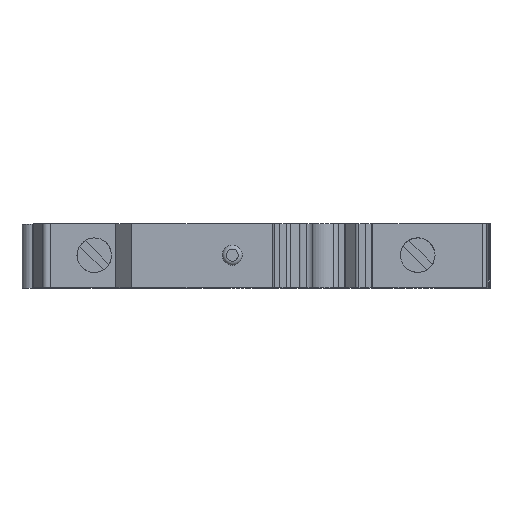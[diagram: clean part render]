
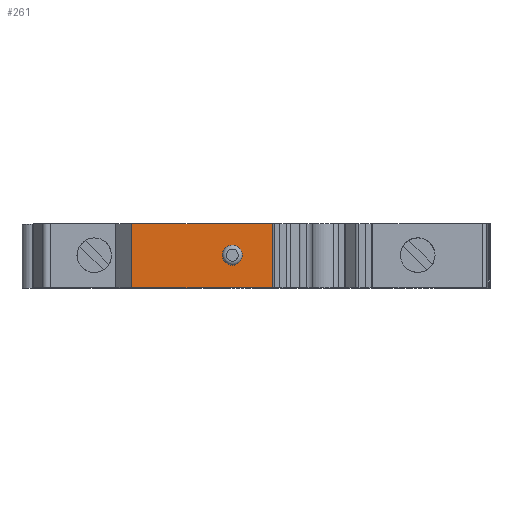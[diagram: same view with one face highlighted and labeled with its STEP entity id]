
A CAD part, top view. The second image highlights one B-rep face of the part: STEP entity #261.
In plain terms, the highlighted planar face has unit normal (0, 0, 1).
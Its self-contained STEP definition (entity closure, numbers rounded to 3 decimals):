
#261 = ADVANCED_FACE( '', ( #701, #702 ), #703, .F. );
#701 = FACE_BOUND( '', #1146, .T. );
#702 = FACE_OUTER_BOUND( '', #1147, .T. );
#703 = PLANE( '', #1148 );
#1146 = EDGE_LOOP( '', ( #3008 ) );
#1147 = EDGE_LOOP( '', ( #3009, #3010, #3011, #3012 ) );
#1148 = AXIS2_PLACEMENT_3D( '', #3013, #3014, #3015 );
#3008 = ORIENTED_EDGE( '', *, *, #3036, .T. );
#3009 = ORIENTED_EDGE( '', *, *, #3327, .T. );
#3010 = ORIENTED_EDGE( '', *, *, #3644, .F. );
#3011 = ORIENTED_EDGE( '', *, *, #3307, .F. );
#3012 = ORIENTED_EDGE( '', *, *, #3483, .T. );
#3013 = CARTESIAN_POINT( '', ( -15.771, 8., 40.44 ) );
#3014 = DIRECTION( '', ( 0., 0., -1. ) );
#3015 = DIRECTION( '', ( -1., 0., 0. ) );
#3036 = EDGE_CURVE( '', #3648, #3648, #3649, .T. );
#3307 = EDGE_CURVE( '', #4147, #4149, #4150, .T. );
#3327 = EDGE_CURVE( '', #4188, #4186, #4189, .T. );
#3483 = EDGE_CURVE( '', #4147, #4188, #4495, .T. );
#3644 = EDGE_CURVE( '', #4149, #4186, #4656, .T. );
#3648 = VERTEX_POINT( '', #4660 );
#3649 = CIRCLE( '', #4661, 1.25 );
#4147 = VERTEX_POINT( '', #5343 );
#4149 = VERTEX_POINT( '', #5346 );
#4150 = LINE( '', #5347, #5348 );
#4186 = VERTEX_POINT( '', #5396 );
#4188 = VERTEX_POINT( '', #5399 );
#4189 = LINE( '', #5400, #5401 );
#4495 = LINE( '', #5792, #5793 );
#4656 = LINE( '', #6114, #6115 );
#4660 = CARTESIAN_POINT( '', ( -19.901, 4.07, 40.44 ) );
#4661 = AXIS2_PLACEMENT_3D( '', #6121, #6122, #6123 );
#5343 = CARTESIAN_POINT( '', ( -31.182, 8., 40.44 ) );
#5346 = CARTESIAN_POINT( '', ( -13.651, 8., 40.44 ) );
#5347 = CARTESIAN_POINT( '', ( -19.771, 8., 40.44 ) );
#5348 = VECTOR( '', #6564, 1000. );
#5396 = CARTESIAN_POINT( '', ( -13.651, 0., 40.44 ) );
#5399 = CARTESIAN_POINT( '', ( -31.182, 0., 40.44 ) );
#5400 = CARTESIAN_POINT( '', ( -15.771, 0., 40.44 ) );
#5401 = VECTOR( '', #6596, 1000. );
#5792 = CARTESIAN_POINT( '', ( -31.182, 8., 40.44 ) );
#5793 = VECTOR( '', #6892, 1000. );
#6114 = CARTESIAN_POINT( '', ( -13.651, 8., 40.44 ) );
#6115 = VECTOR( '', #7053, 1000. );
#6121 = CARTESIAN_POINT( '', ( -18.651, 4.07, 40.44 ) );
#6122 = DIRECTION( '', ( 0., 0., -1. ) );
#6123 = DIRECTION( '', ( -1., 0., 0. ) );
#6564 = DIRECTION( '', ( 1., 0., 0. ) );
#6596 = DIRECTION( '', ( 1., 0., 0. ) );
#6892 = DIRECTION( '', ( 0., -1., 0. ) );
#7053 = DIRECTION( '', ( 0., -1., 0. ) );
